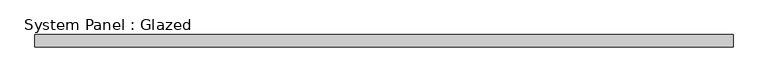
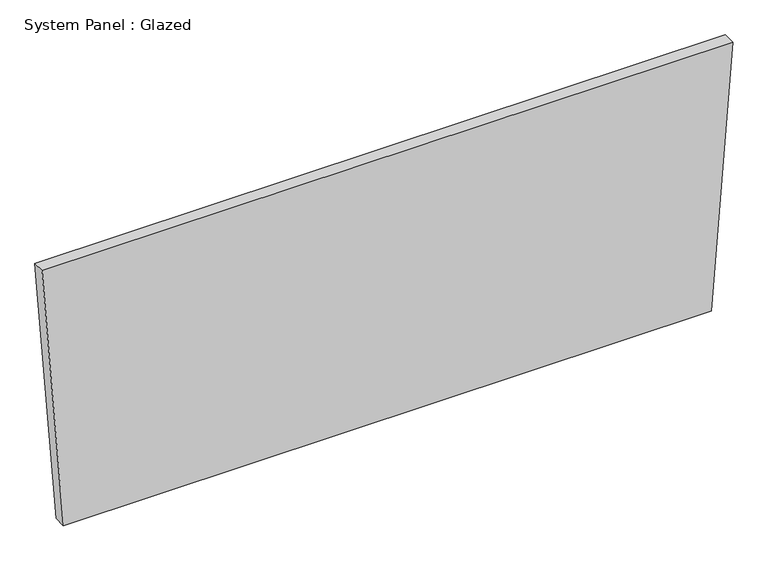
"""IFC4 building model written with IfcOpenShell, lengths in millimetres: plate geometry, System Panel : Glazed."""

from ifc_helpers import new_model, si_unit, frame, origin, place, context, project, spatial, polyline, outline, extrude, source, transform, mapped, element, save


def system_panel_glazed_dfe8d515(model_context):
    return source(origin(), model_context, "Body", "SweptSolid", [
        extrude(outline(polyline([(0.0, -666.0117741), (0.0, 666.0117741), (569.6991556, 709.8991969), (569.6991556, -709.8991969), (0.0, -666.0117741)])), frame((0.0, 19.05, 0.0), z_axis=(0.0, 1.0, 0.0), x_axis=(0.0, 0.0, 1.0)), (0.0, 0.0, 1.0), 25.4),
    ])


if __name__ == "__main__":
    model = new_model("IFC4")
    model_context = context("Model", 3, world=origin())
    ifc_project = project(units=[si_unit("LENGTHUNIT", "METRE", prefix="MILLI")], contexts=[model_context])
    site = spatial("IfcSite", under=ifc_project)
    building = spatial("IfcBuilding", under=site)
    placement = place(None, origin())
    system_panel_glazed_shape = system_panel_glazed_dfe8d515(model_context)
    element("IfcPlate", 1, ObjectType="System Panel : Glazed", at=placement, inside=building, context=model_context, shape_type="MappedRepresentation", body=[
        mapped(system_panel_glazed_shape, transform((0.0, 0.0, 0.0), x_axis=(1.0, 0.0, 0.0), y_axis=(0.0, 1.0, 0.0), z_axis=(0.0, 0.0, 1.0))),
    ])
    save(model, "model.ifc")
